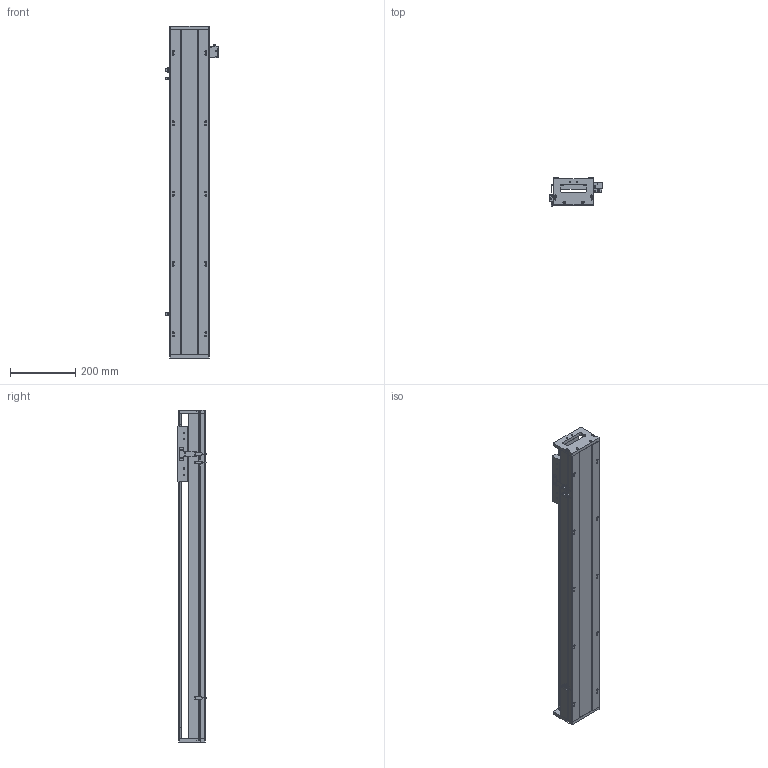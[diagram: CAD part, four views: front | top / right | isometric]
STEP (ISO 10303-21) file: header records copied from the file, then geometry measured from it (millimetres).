
FILE_DESCRIPTION (( 'STEP AP203' ), '1' );
FILE_NAME ('SKR12S-C1-S750（简）.STEP', '2022-09-26T02:45:08', ( '' ), ( '' ), 'SwSTEP 2.0', 'SolidWorks 2018', '' );
FILE_SCHEMA (( 'CONFIG_CONTROL_DESIGN' ));
Length unit declared in the file: millimetre
Products named in the file (8): SKR12耜啣; 棠掑假蚾輸; SKR12滑台-170L（简）; 覜茼え; SKR12S-C1-S750（简）; SIKO棠掑; EE-SX672; SKR12菁釱-C1-S750(潠)
Assembly tree (10 placements, depth 2):
  SKR12S-C1-S750（简）
    SKR12菁釱-C1-S750(潠)
    SKR12滑台-170L（简）
    SKR12耜啣  x2
    棠掑假蚾輸
    SIKO棠掑
    覜茼え
    EE-SX672  x3
Bounding box: 162.7 x 87.3 x 1020 mm (x, y, z)
Volume: 4646486.4 mm3; surface area: 762456.6 mm2
Topology: 11 solids, 11 shells, 960 faces, 2547 edges, 1611 vertices
Faces by surface type: cylinder 433, plane 397, cone 130
Entity records: 25875 total; most frequent: CARTESIAN_POINT 5067, DIRECTION 4309, ORIENTED_EDGE 4066, EDGE_CURVE 2033, AXIS2_PLACEMENT_3D 1589, VERTEX_POINT 1315, VECTOR 1131, LINE 1131
